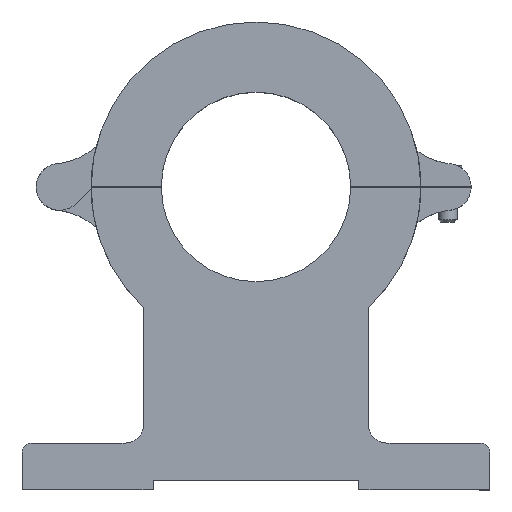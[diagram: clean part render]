
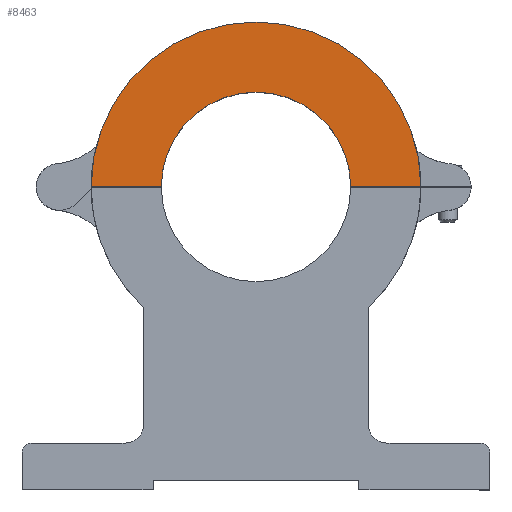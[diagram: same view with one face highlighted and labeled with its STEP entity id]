
A CAD part, top view. The second image highlights one B-rep face of the part: STEP entity #8463.
In plain terms, the highlighted planar face has unit normal (0, 0, 1).
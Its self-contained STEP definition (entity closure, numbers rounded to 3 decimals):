
#1094 = PLANE('',#1095);
#1095 = AXIS2_PLACEMENT_3D('',#1096,#1097,#1098);
#1096 = CARTESIAN_POINT('',(0.,64.875,12.));
#1097 = DIRECTION('',(0.,-1.,0.));
#1098 = DIRECTION('',(0.,0.,-1.));
#4275 = PLANE('',#4276);
#4276 = AXIS2_PLACEMENT_3D('',#4277,#4278,#4279);
#4277 = CARTESIAN_POINT('',(0.,64.875,12.));
#4278 = DIRECTION('',(0.,-1.,0.));
#4279 = DIRECTION('',(0.,0.,-1.));
#5061 = CYLINDRICAL_SURFACE('',#5062,35.25);
#5062 = AXIS2_PLACEMENT_3D('',#5063,#5064,#5065);
#5063 = CARTESIAN_POINT('',(0.,64.75,0.));
#5064 = DIRECTION('',(0.,0.,1.));
#5065 = DIRECTION('',(1.,0.,-0.));
#5158 = VERTEX_POINT('',#5159);
#5159 = CARTESIAN_POINT('',(35.25,64.875,24.));
#5180 = EDGE_CURVE('',#5181,#5158,#5183,.T.);
#5181 = VERTEX_POINT('',#5182);
#5182 = CARTESIAN_POINT('',(20.25,64.875,24.));
#5183 = SURFACE_CURVE('',#5184,(#5188,#5195),.PCURVE_S1.);
#5184 = LINE('',#5185,#5186);
#5185 = CARTESIAN_POINT('',(0.,64.875,24.));
#5186 = VECTOR('',#5187,1.);
#5187 = DIRECTION('',(1.,0.,-0.));
#5188 = PCURVE('',#1094,#5189);
#5189 = DEFINITIONAL_REPRESENTATION('',(#5190),#5194);
#5190 = LINE('',#5191,#5192);
#5191 = CARTESIAN_POINT('',(-12.,0.));
#5192 = VECTOR('',#5193,1.);
#5193 = DIRECTION('',(0.,1.));
#5194 = ( GEOMETRIC_REPRESENTATION_CONTEXT(2) 
PARAMETRIC_REPRESENTATION_CONTEXT() REPRESENTATION_CONTEXT('2D SPACE',''
  ) );
#5195 = PCURVE('',#5196,#5201);
#5196 = PLANE('',#5197);
#5197 = AXIS2_PLACEMENT_3D('',#5198,#5199,#5200);
#5198 = CARTESIAN_POINT('',(0.,35.515,24.));
#5199 = DIRECTION('',(0.,0.,1.));
#5200 = DIRECTION('',(1.,0.,-0.));
#5201 = DEFINITIONAL_REPRESENTATION('',(#5202),#5206);
#5202 = LINE('',#5203,#5204);
#5203 = CARTESIAN_POINT('',(0.,29.36));
#5204 = VECTOR('',#5205,1.);
#5205 = DIRECTION('',(1.,0.));
#5206 = ( GEOMETRIC_REPRESENTATION_CONTEXT(2) 
PARAMETRIC_REPRESENTATION_CONTEXT() REPRESENTATION_CONTEXT('2D SPACE',''
  ) );
#5224 = CYLINDRICAL_SURFACE('',#5225,20.25);
#5225 = AXIS2_PLACEMENT_3D('',#5226,#5227,#5228);
#5226 = CARTESIAN_POINT('',(0.,64.75,11.));
#5227 = DIRECTION('',(0.,0.,1.));
#5228 = DIRECTION('',(1.,0.,-0.));
#7279 = VERTEX_POINT('',#7280);
#7280 = CARTESIAN_POINT('',(-35.25,64.875,24.));
#7301 = EDGE_CURVE('',#7279,#5158,#7302,.T.);
#7302 = SURFACE_CURVE('',#7303,(#7308,#7315),.PCURVE_S1.);
#7303 = CIRCLE('',#7304,35.25);
#7304 = AXIS2_PLACEMENT_3D('',#7305,#7306,#7307);
#7305 = CARTESIAN_POINT('',(0.,64.75,24.));
#7306 = DIRECTION('',(0.,0.,-1.));
#7307 = DIRECTION('',(1.,0.,0.));
#7308 = PCURVE('',#5061,#7309);
#7309 = DEFINITIONAL_REPRESENTATION('',(#7310),#7314);
#7310 = LINE('',#7311,#7312);
#7311 = CARTESIAN_POINT('',(6.283,24.));
#7312 = VECTOR('',#7313,1.);
#7313 = DIRECTION('',(-1.,0.));
#7314 = ( GEOMETRIC_REPRESENTATION_CONTEXT(2) 
PARAMETRIC_REPRESENTATION_CONTEXT() REPRESENTATION_CONTEXT('2D SPACE',''
  ) );
#7315 = PCURVE('',#5196,#7316);
#7316 = DEFINITIONAL_REPRESENTATION('',(#7317),#7325);
#7317 = ( BOUNDED_CURVE() B_SPLINE_CURVE(2,(#7318,#7319,#7320,#7321,
#7322,#7323,#7324),.UNSPECIFIED.,.T.,.F.) B_SPLINE_CURVE_WITH_KNOTS((1,2
    ,2,2,2,1),(-2.094,0.,2.094,4.189,
6.283,8.378),.UNSPECIFIED.) CURVE() 
GEOMETRIC_REPRESENTATION_ITEM() RATIONAL_B_SPLINE_CURVE((1.,0.5,1.,0.5,
1.,0.5,1.)) REPRESENTATION_ITEM('') );
#7318 = CARTESIAN_POINT('',(35.25,29.235));
#7319 = CARTESIAN_POINT('',(35.25,-31.82));
#7320 = CARTESIAN_POINT('',(-17.625,-1.292));
#7321 = CARTESIAN_POINT('',(-70.5,29.235));
#7322 = CARTESIAN_POINT('',(-17.625,59.763));
#7323 = CARTESIAN_POINT('',(35.25,90.29));
#7324 = CARTESIAN_POINT('',(35.25,29.235));
#7325 = ( GEOMETRIC_REPRESENTATION_CONTEXT(2) 
PARAMETRIC_REPRESENTATION_CONTEXT() REPRESENTATION_CONTEXT('2D SPACE',''
  ) );
#8415 = VERTEX_POINT('',#8416);
#8416 = CARTESIAN_POINT('',(-20.25,64.875,24.));
#8437 = EDGE_CURVE('',#8415,#5181,#8438,.T.);
#8438 = SURFACE_CURVE('',#8439,(#8444,#8451),.PCURVE_S1.);
#8439 = CIRCLE('',#8440,20.25);
#8440 = AXIS2_PLACEMENT_3D('',#8441,#8442,#8443);
#8441 = CARTESIAN_POINT('',(0.,64.75,24.));
#8442 = DIRECTION('',(0.,0.,-1.));
#8443 = DIRECTION('',(1.,0.,0.));
#8444 = PCURVE('',#5224,#8445);
#8445 = DEFINITIONAL_REPRESENTATION('',(#8446),#8450);
#8446 = LINE('',#8447,#8448);
#8447 = CARTESIAN_POINT('',(6.283,13.));
#8448 = VECTOR('',#8449,1.);
#8449 = DIRECTION('',(-1.,0.));
#8450 = ( GEOMETRIC_REPRESENTATION_CONTEXT(2) 
PARAMETRIC_REPRESENTATION_CONTEXT() REPRESENTATION_CONTEXT('2D SPACE',''
  ) );
#8451 = PCURVE('',#5196,#8452);
#8452 = DEFINITIONAL_REPRESENTATION('',(#8453),#8461);
#8453 = ( BOUNDED_CURVE() B_SPLINE_CURVE(2,(#8454,#8455,#8456,#8457,
#8458,#8459,#8460),.UNSPECIFIED.,.T.,.F.) B_SPLINE_CURVE_WITH_KNOTS((1,2
    ,2,2,2,1),(-2.094,0.,2.094,4.189,
6.283,8.378),.UNSPECIFIED.) CURVE() 
GEOMETRIC_REPRESENTATION_ITEM() RATIONAL_B_SPLINE_CURVE((1.,0.5,1.,0.5,
1.,0.5,1.)) REPRESENTATION_ITEM('') );
#8454 = CARTESIAN_POINT('',(20.25,29.235));
#8455 = CARTESIAN_POINT('',(20.25,-5.839));
#8456 = CARTESIAN_POINT('',(-10.125,11.698));
#8457 = CARTESIAN_POINT('',(-40.5,29.235));
#8458 = CARTESIAN_POINT('',(-10.125,46.772));
#8459 = CARTESIAN_POINT('',(20.25,64.309));
#8460 = CARTESIAN_POINT('',(20.25,29.235));
#8461 = ( GEOMETRIC_REPRESENTATION_CONTEXT(2) 
PARAMETRIC_REPRESENTATION_CONTEXT() REPRESENTATION_CONTEXT('2D SPACE',''
  ) );
#8463 = ADVANCED_FACE('',(#8464),#5196,.T.);
#8464 = FACE_BOUND('',#8465,.T.);
#8465 = EDGE_LOOP('',(#8466,#8467,#8468,#8489));
#8466 = ORIENTED_EDGE('',*,*,#5180,.T.);
#8467 = ORIENTED_EDGE('',*,*,#7301,.F.);
#8468 = ORIENTED_EDGE('',*,*,#8469,.T.);
#8469 = EDGE_CURVE('',#7279,#8415,#8470,.T.);
#8470 = SURFACE_CURVE('',#8471,(#8475,#8482),.PCURVE_S1.);
#8471 = LINE('',#8472,#8473);
#8472 = CARTESIAN_POINT('',(0.,64.875,24.));
#8473 = VECTOR('',#8474,1.);
#8474 = DIRECTION('',(1.,0.,-0.));
#8475 = PCURVE('',#5196,#8476);
#8476 = DEFINITIONAL_REPRESENTATION('',(#8477),#8481);
#8477 = LINE('',#8478,#8479);
#8478 = CARTESIAN_POINT('',(0.,29.36));
#8479 = VECTOR('',#8480,1.);
#8480 = DIRECTION('',(1.,0.));
#8481 = ( GEOMETRIC_REPRESENTATION_CONTEXT(2) 
PARAMETRIC_REPRESENTATION_CONTEXT() REPRESENTATION_CONTEXT('2D SPACE',''
  ) );
#8482 = PCURVE('',#4275,#8483);
#8483 = DEFINITIONAL_REPRESENTATION('',(#8484),#8488);
#8484 = LINE('',#8485,#8486);
#8485 = CARTESIAN_POINT('',(-12.,0.));
#8486 = VECTOR('',#8487,1.);
#8487 = DIRECTION('',(0.,1.));
#8488 = ( GEOMETRIC_REPRESENTATION_CONTEXT(2) 
PARAMETRIC_REPRESENTATION_CONTEXT() REPRESENTATION_CONTEXT('2D SPACE',''
  ) );
#8489 = ORIENTED_EDGE('',*,*,#8437,.T.);
